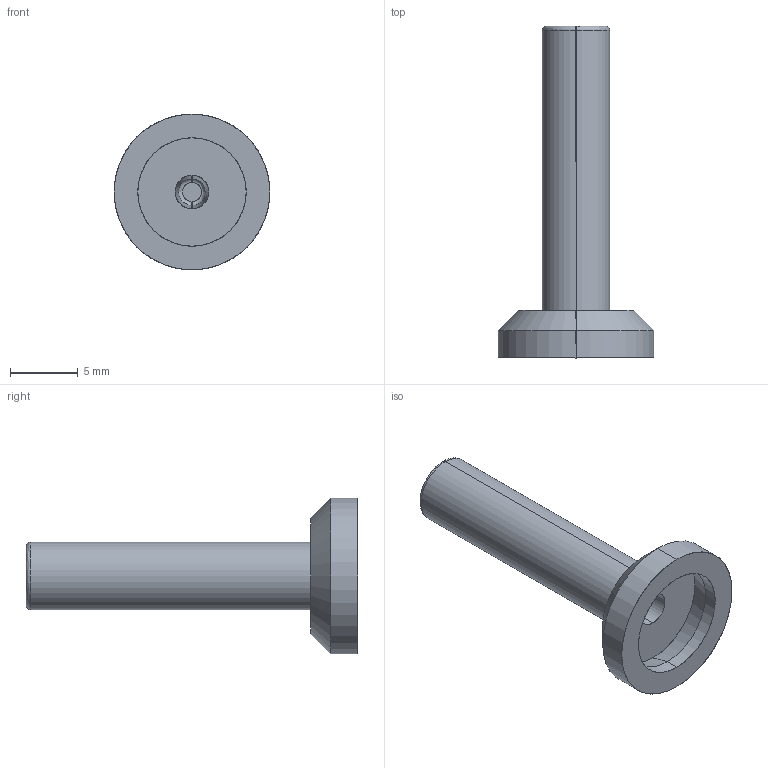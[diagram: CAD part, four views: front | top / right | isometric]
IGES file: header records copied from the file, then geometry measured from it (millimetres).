
Start section: SolidWorks IGES file using analytic representation for surfaces
Global section: file name: K:\Disegni Esecutivi\Serie 8000\8610\086100031X3RO.IGS; native system: SolidWorks 2007; preprocessor: SolidWorks 2007; author: cad02; date: 071015.080733; units: millimetre
Bounding box: 11.5 x 24.5 x 11.5 mm (x, y, z)
Surface area: 866.7 mm2 (no closed solid volume)
Topology: 0 solids, 0 shells, 26 faces, 368 edges, 368 vertices
Faces by surface type: revolution 14, bspline 12
